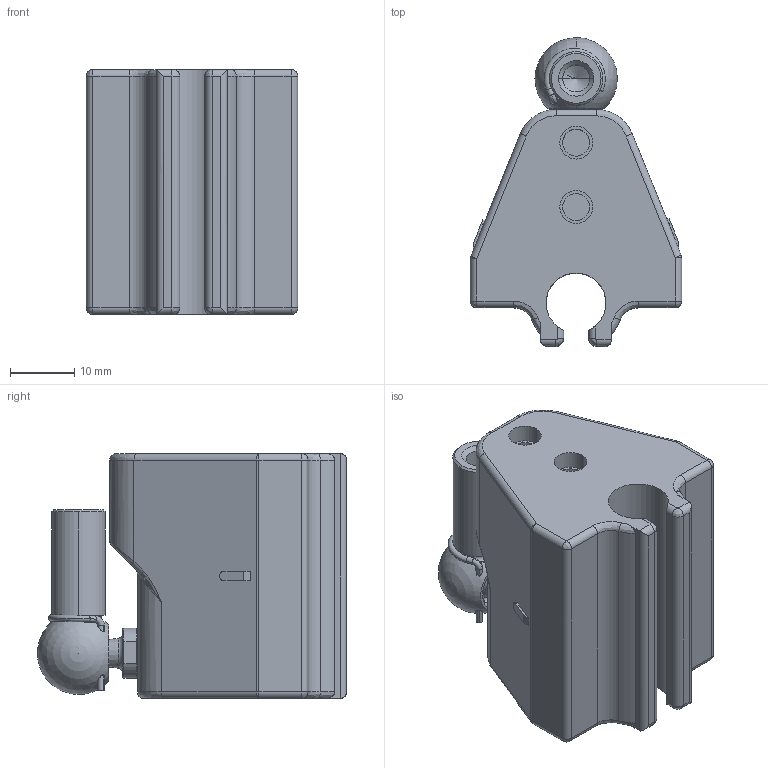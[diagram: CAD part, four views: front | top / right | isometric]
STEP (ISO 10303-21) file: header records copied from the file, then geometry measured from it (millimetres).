
FILE_DESCRIPTION (( 'STEP AP203' ), '1' );
FILE_NAME ('PCUR222x.STEP', '2018-12-17T13:21:23', ( '' ), ( '' ), 'SwSTEP 2.0', 'SolidWorks 2019', '' );
FILE_SCHEMA (( 'CONFIG_CONTROL_DESIGN' ));
Length unit declared in the file: millimetre
Products named in the file (1): PCUR222x
Bounding box: 32.8 x 47.98 x 38 mm (x, y, z)
Volume: 28466.3 mm3; surface area: 10124.6 mm2
Topology: 5 solids, 6 shells, 226 faces, 524 edges, 311 vertices
Faces by surface type: cylinder 82, plane 58, bspline 34, torus 32, cone 14, sphere 6
Entity records: 7533 total; most frequent: CARTESIAN_POINT 2556, DIRECTION 1055, ORIENTED_EDGE 1006, EDGE_CURVE 503, AXIS2_PLACEMENT_3D 435, VERTEX_POINT 304, EDGE_LOOP 245, CIRCLE 242
